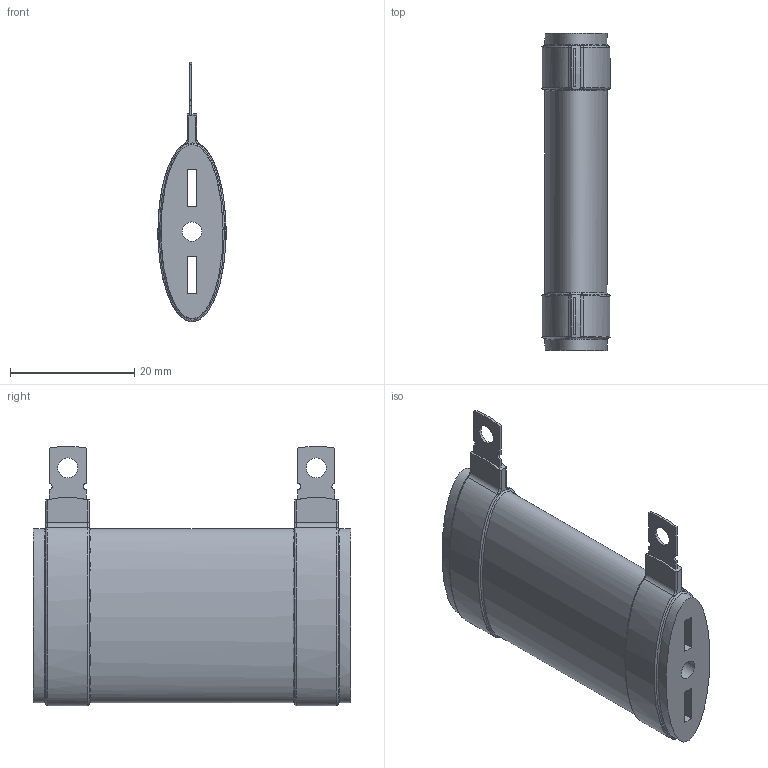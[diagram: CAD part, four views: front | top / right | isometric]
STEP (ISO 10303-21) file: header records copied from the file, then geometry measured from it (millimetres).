
FILE_DESCRIPTION(/* description */ (''),/* implementation_level */ '2;1');
FILE_NAME(/* name */ 'C:\_Vault\Dati\CATALOGO\RCE\RCE 31.stp',/* time_stamp */ '2014-03-19T16:53:52+01:00',/* author */ ('stefano'),/* organization */ (''),/* preprocessor_version */ 'ST-DEVELOPER v15.2',/* originating_system */ 'Autodesk Inventor 2014',/* authorisation */ '');
FILE_SCHEMA (('AUTOMOTIVE_DESIGN { 1 0 10303 214 3 1 1 }'));
Length unit declared in the file: millimetre
Products named in the file (1): RCE 31
Bounding box: 10.97 x 51 x 41.72 mm (x, y, z)
Volume: 10433.5 mm3; surface area: 6079.2 mm2
Topology: 1 solids, 1 shells, 84 faces, 222 edges, 142 vertices
Faces by surface type: plane 30, cylinder 23, bspline 23, torus 8
Full cylindrical faces by diameter (mm): 3.1 x1, 3.2 x2
Entity records: 4350 total; most frequent: CARTESIAN_POINT 2258, ORIENTED_EDGE 438, DIRECTION 356, EDGE_CURVE 219, VERTEX_POINT 142, AXIS2_PLACEMENT_3D 136, EDGE_LOOP 99, STYLED_ITEM 85
